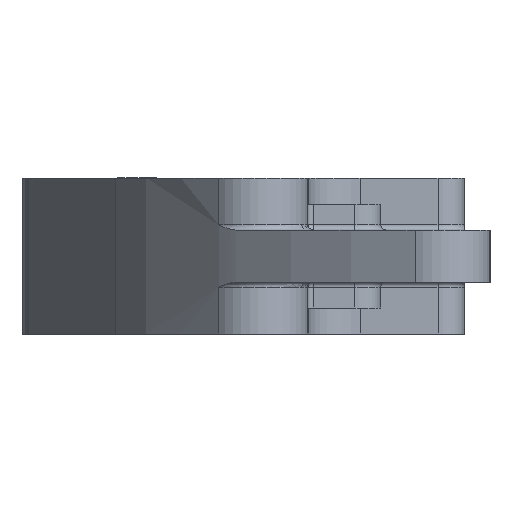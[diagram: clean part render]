
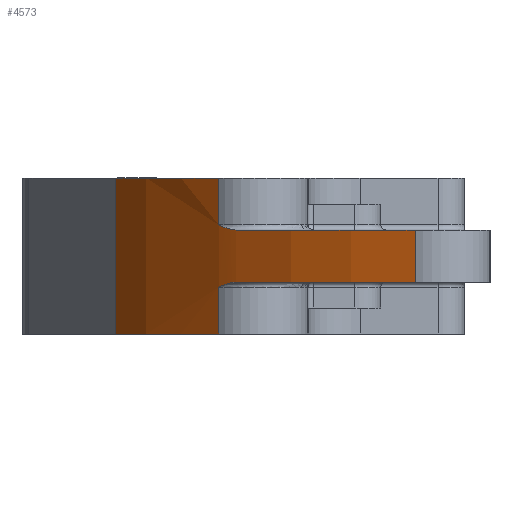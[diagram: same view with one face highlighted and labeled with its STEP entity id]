
A CAD part, left-side view. The second image highlights one B-rep face of the part: STEP entity #4573.
In plain terms, the highlighted cylindrical face has radius 13.504 mm (diameter 27.007 mm), a partial arc.
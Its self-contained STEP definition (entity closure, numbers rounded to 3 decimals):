
#9 = CARTESIAN_POINT ( 'NONE',  ( -4.087, 9.61, -0.554 ) ) ;
#25 = DIRECTION ( 'NONE',  ( 1., 0., 0. ) ) ;
#101 = DIRECTION ( 'NONE',  ( 0., 0., 1. ) ) ;
#102 = CARTESIAN_POINT ( 'NONE',  ( -4.311, 9.383, 0.5 ) ) ;
#201 = CARTESIAN_POINT ( 'NONE',  ( 5.4, 0., 1.5 ) ) ;
#440 = DIRECTION ( 'NONE',  ( 0., 0., -1. ) ) ;
#441 = CARTESIAN_POINT ( 'NONE',  ( -4.125, 9.572, -0.54 ) ) ;
#482 = LINE ( 'NONE', #3867, #4752 ) ;
#498 = EDGE_CURVE ( 'NONE', #3417, #1046, #482, .T. ) ;
#514 = CARTESIAN_POINT ( 'NONE',  ( -4.249, 9.447, 0.504 ) ) ;
#536 = CARTESIAN_POINT ( 'NONE',  ( -4.17, 9.527, 0.524 ) ) ;
#574 = AXIS2_PLACEMENT_3D ( 'NONE', #1707, #1293, #2134 ) ;
#634 = DIRECTION ( 'NONE',  ( -1., 0., 0. ) ) ;
#760 = CARTESIAN_POINT ( 'NONE',  ( -3.974, 9.72, 0.6 ) ) ;
#778 = CIRCLE ( 'NONE', #4961, 13.504 ) ;
#821 = VERTEX_POINT ( 'NONE', #3590 ) ;
#854 = LINE ( 'NONE', #4010, #1714 ) ;
#865 = CARTESIAN_POINT ( 'NONE',  ( -4.137, 9.56, -0.535 ) ) ;
#965 = CARTESIAN_POINT ( 'NONE',  ( -4.15, 9.547, 0.531 ) ) ;
#1041 = EDGE_CURVE ( 'NONE', #821, #3121, #854, .T. ) ;
#1046 = VERTEX_POINT ( 'NONE', #1443 ) ;
#1082 = ORIENTED_EDGE ( 'NONE', *, *, #2846, .F. ) ;
#1206 = VERTEX_POINT ( 'NONE', #3674 ) ;
#1274 = CARTESIAN_POINT ( 'NONE',  ( -3.974, 9.72, 1.05 ) ) ;
#1293 = DIRECTION ( 'NONE',  ( 0., 0., -1. ) ) ;
#1297 = CARTESIAN_POINT ( 'NONE',  ( -4.14, 9.557, -0.534 ) ) ;
#1385 = CARTESIAN_POINT ( 'NONE',  ( -4.143, 9.554, 0.533 ) ) ;
#1443 = CARTESIAN_POINT ( 'NONE',  ( -3.974, 9.72, -0.6 ) ) ;
#1454 = EDGE_CURVE ( 'NONE', #5501, #4142, #4530, .T. ) ;
#1660 = ORIENTED_EDGE ( 'NONE', *, *, #498, .T. ) ;
#1677 = EDGE_CURVE ( 'NONE', #1046, #3998, #4298, .T. ) ;
#1707 = CARTESIAN_POINT ( 'NONE',  ( 5.4, 0., 1.5 ) ) ;
#1713 = CARTESIAN_POINT ( 'NONE',  ( -4.264, 9.431, -0.5 ) ) ;
#1714 = VECTOR ( 'NONE', #4449, 1000. ) ;
#1776 = CYLINDRICAL_SURFACE ( 'NONE', #574, 13.504 ) ;
#1812 = CARTESIAN_POINT ( 'NONE',  ( -4.05, 9.647, 0.568 ) ) ;
#1870 = EDGE_CURVE ( 'NONE', #2251, #5501, #5134, .T. ) ;
#1924 = CIRCLE ( 'NONE', #4020, 13.504 ) ;
#1940 = CIRCLE ( 'NONE', #4523, 13.504 ) ;
#2004 = CIRCLE ( 'NONE', #4336, 13.504 ) ;
#2008 = ORIENTED_EDGE ( 'NONE', *, *, #1454, .T. ) ;
#2134 = DIRECTION ( 'NONE',  ( 0., 1., 0. ) ) ;
#2186 = VECTOR ( 'NONE', #3054, 1000. ) ;
#2196 = CARTESIAN_POINT ( 'NONE',  ( -6.727, 5.94, 0. ) ) ;
#2251 = VERTEX_POINT ( 'NONE', #3132 ) ;
#2275 = CARTESIAN_POINT ( 'NONE',  ( -3.974, 9.72, -1.5 ) ) ;
#2324 = CARTESIAN_POINT ( 'NONE',  ( -3.974, 9.72, 1.5 ) ) ;
#2458 = ORIENTED_EDGE ( 'NONE', *, *, #3332, .F. ) ;
#2550 = CARTESIAN_POINT ( 'NONE',  ( -4.045, 9.651, -0.571 ) ) ;
#2559 = DIRECTION ( 'NONE',  ( 0., 0., 1. ) ) ;
#2580 = DIRECTION ( 'NONE',  ( 0., 0., 1. ) ) ;
#2601 = EDGE_CURVE ( 'NONE', #4142, #821, #2004, .T. ) ;
#2634 = CARTESIAN_POINT ( 'NONE',  ( 5.4, 0., 0.5 ) ) ;
#2635 = CARTESIAN_POINT ( 'NONE',  ( -4.288, 9.407, 0.5 ) ) ;
#2846 = EDGE_CURVE ( 'NONE', #4730, #3998, #1940, .T. ) ;
#2940 = ORIENTED_EDGE ( 'NONE', *, *, #4551, .T. ) ;
#2980 = CARTESIAN_POINT ( 'NONE',  ( 5.4, 0., -0.5 ) ) ;
#2981 = CARTESIAN_POINT ( 'NONE',  ( -4.106, 9.591, -0.547 ) ) ;
#3044 = FACE_OUTER_BOUND ( 'NONE', #3358, .T. ) ;
#3054 = DIRECTION ( 'NONE',  ( 0., 0., 1. ) ) ;
#3055 = LINE ( 'NONE', #2196, #2186 ) ;
#3078 = DIRECTION ( 'NONE',  ( 1., 0., 0. ) ) ;
#3081 = CARTESIAN_POINT ( 'NONE',  ( -4.198, 9.499, 0.516 ) ) ;
#3121 = VERTEX_POINT ( 'NONE', #3270 ) ;
#3132 = CARTESIAN_POINT ( 'NONE',  ( -4.311, 9.383, 0.5 ) ) ;
#3181 = DIRECTION ( 'NONE',  ( 0., 0., -1. ) ) ;
#3270 = CARTESIAN_POINT ( 'NONE',  ( -1.352, 11.695, -1.5 ) ) ;
#3320 = EDGE_CURVE ( 'NONE', #4730, #1206, #3055, .T. ) ;
#3332 = EDGE_CURVE ( 'NONE', #2251, #1206, #1924, .T. ) ;
#3358 = EDGE_LOOP ( 'NONE', ( #2940, #1660, #3603, #1082, #4830, #2458, #4553, #2008, #4599, #4688 ) ) ;
#3389 = VECTOR ( 'NONE', #3772, 1000. ) ;
#3417 = VERTEX_POINT ( 'NONE', #2275 ) ;
#3427 = DIRECTION ( 'NONE',  ( -1., 0., 0. ) ) ;
#3428 = CARTESIAN_POINT ( 'NONE',  ( -4.134, 9.563, -0.536 ) ) ;
#3521 = CARTESIAN_POINT ( 'NONE',  ( -4.156, 9.541, 0.529 ) ) ;
#3590 = CARTESIAN_POINT ( 'NONE',  ( -1.352, 11.695, 1.5 ) ) ;
#3603 = ORIENTED_EDGE ( 'NONE', *, *, #1677, .T. ) ;
#3674 = CARTESIAN_POINT ( 'NONE',  ( -6.727, 5.94, 0.5 ) ) ;
#3772 = DIRECTION ( 'NONE',  ( 0., 0., 1. ) ) ;
#3847 = CARTESIAN_POINT ( 'NONE',  ( -4.14, 9.557, -0.534 ) ) ;
#3867 = CARTESIAN_POINT ( 'NONE',  ( -3.974, 9.72, -1.05 ) ) ;
#3947 = CARTESIAN_POINT ( 'NONE',  ( -4.146, 9.551, 0.532 ) ) ;
#3998 = VERTEX_POINT ( 'NONE', #4100 ) ;
#4010 = CARTESIAN_POINT ( 'NONE',  ( -1.352, 11.695, 0. ) ) ;
#4020 = AXIS2_PLACEMENT_3D ( 'NONE', #2634, #101, #3078 ) ;
#4100 = CARTESIAN_POINT ( 'NONE',  ( -4.311, 9.383, -0.5 ) ) ;
#4142 = VERTEX_POINT ( 'NONE', #2324 ) ;
#4284 = CARTESIAN_POINT ( 'NONE',  ( -4.208, 9.489, -0.511 ) ) ;
#4298 = B_SPLINE_CURVE_WITH_KNOTS ( 'NONE', 3,
 ( #4698, #5103, #2550, #9, #2981, #441, #3428, #865, #3847, #1297, #4284, #1713, #4710 ),
 .UNSPECIFIED., .F., .F.,
 ( 4, 2, 1, 1, 1, 2, 2, 4 ),
 ( 0., 0.25, 0.375, 0.437, 0.469, 0.484, 0.5, 1. ),
 .UNSPECIFIED. ) ;
#4336 = AXIS2_PLACEMENT_3D ( 'NONE', #201, #3181, #634 ) ;
#4384 = CARTESIAN_POINT ( 'NONE',  ( -4.105, 9.592, 0.546 ) ) ;
#4449 = DIRECTION ( 'NONE',  ( 0., 0., -1. ) ) ;
#4523 = AXIS2_PLACEMENT_3D ( 'NONE', #2980, #440, #3427 ) ;
#4530 = LINE ( 'NONE', #1274, #3389 ) ;
#4551 = EDGE_CURVE ( 'NONE', #3121, #3417, #778, .T. ) ;
#4553 = ORIENTED_EDGE ( 'NONE', *, *, #1870, .T. ) ;
#4573 = ADVANCED_FACE ( 'NONE', ( #3044 ), #1776, .T. ) ;
#4599 = ORIENTED_EDGE ( 'NONE', *, *, #2601, .T. ) ;
#4688 = ORIENTED_EDGE ( 'NONE', *, *, #1041, .T. ) ;
#4698 = CARTESIAN_POINT ( 'NONE',  ( -3.974, 9.72, -0.6 ) ) ;
#4710 = CARTESIAN_POINT ( 'NONE',  ( -4.311, 9.383, -0.5 ) ) ;
#4730 = VERTEX_POINT ( 'NONE', #5218 ) ;
#4752 = VECTOR ( 'NONE', #2580, 1000. ) ;
#4801 = CARTESIAN_POINT ( 'NONE',  ( -3.974, 9.72, 0.6 ) ) ;
#4830 = ORIENTED_EDGE ( 'NONE', *, *, #3320, .T. ) ;
#4961 = AXIS2_PLACEMENT_3D ( 'NONE', #5120, #2559, #25 ) ;
#5103 = CARTESIAN_POINT ( 'NONE',  ( -4.012, 9.683, -0.584 ) ) ;
#5120 = CARTESIAN_POINT ( 'NONE',  ( 5.4, 0., -1.5 ) ) ;
#5134 = B_SPLINE_CURVE_WITH_KNOTS ( 'NONE', 3,
 ( #102, #2635, #514, #3081, #536, #3521, #965, #3947, #1385, #4384, #1812, #4801 ),
 .UNSPECIFIED., .F., .F.,
 ( 4, 1, 1, 1, 1, 2, 2, 4 ),
 ( 0., 0.25, 0.375, 0.438, 0.469, 0.484, 0.5, 1. ),
 .UNSPECIFIED. ) ;
#5218 = CARTESIAN_POINT ( 'NONE',  ( -6.727, 5.94, -0.5 ) ) ;
#5501 = VERTEX_POINT ( 'NONE', #760 ) ;
